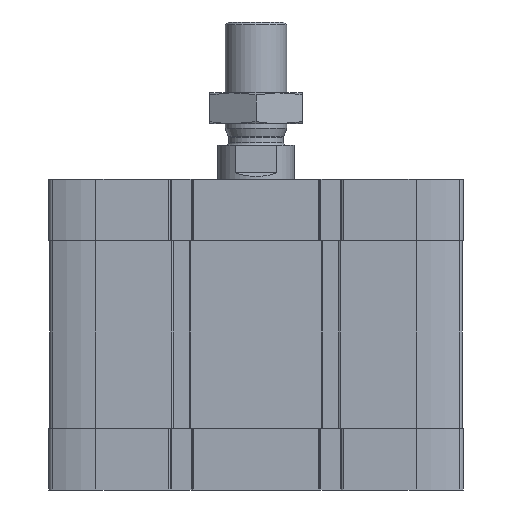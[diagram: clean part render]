
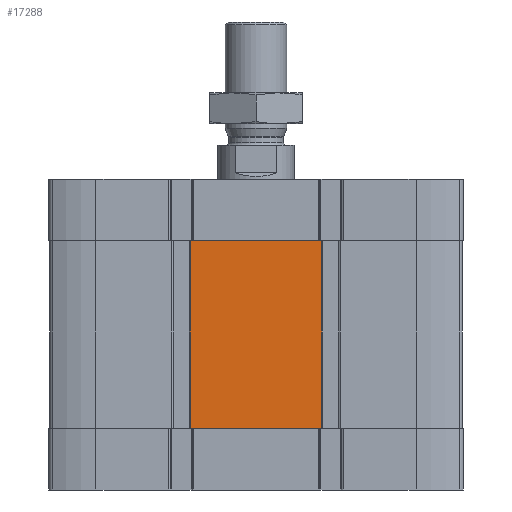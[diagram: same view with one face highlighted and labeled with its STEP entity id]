
A CAD part, front view. The second image highlights one B-rep face of the part: STEP entity #17288.
In plain terms, the highlighted planar face has unit normal (0, -1, 0).
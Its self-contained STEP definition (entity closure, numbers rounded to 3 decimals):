
#852 = VERTEX_POINT ( 'NONE', #6602 ) ;
#915 = FACE_OUTER_BOUND ( 'NONE', #6886, .T. ) ;
#1289 = DIRECTION ( 'NONE',  ( 1., 0., 0. ) ) ;
#1398 = ORIENTED_EDGE ( 'NONE', *, *, #10914, .F. ) ;
#1501 = DIRECTION ( 'NONE',  ( 0., 0., 1. ) ) ;
#1591 = DIRECTION ( 'NONE',  ( 1., 0., 0. ) ) ;
#1842 = EDGE_CURVE ( 'NONE', #11816, #852, #8671, .T. ) ;
#1900 = ORIENTED_EDGE ( 'NONE', *, *, #7865, .T. ) ;
#2035 = EDGE_CURVE ( 'NONE', #4193, #4797, #4889, .T. ) ;
#2349 = ORIENTED_EDGE ( 'NONE', *, *, #1842, .T. ) ;
#2421 = CARTESIAN_POINT ( 'NONE',  ( -21.3, -67., -81. ) ) ;
#3587 = CARTESIAN_POINT ( 'NONE',  ( -20.687, -67., -81. ) ) ;
#4072 = CARTESIAN_POINT ( 'NONE',  ( -21.3, -67., -20. ) ) ;
#4193 = VERTEX_POINT ( 'NONE', #4072 ) ;
#4428 = VECTOR ( 'NONE', #1289, 1000. ) ;
#4518 = LINE ( 'NONE', #15621, #14777 ) ;
#4794 = DIRECTION ( 'NONE',  ( 1., 0., 0. ) ) ;
#4797 = VERTEX_POINT ( 'NONE', #14120 ) ;
#4889 = LINE ( 'NONE', #13162, #13320 ) ;
#5149 = VECTOR ( 'NONE', #8596, 1000. ) ;
#5422 = CARTESIAN_POINT ( 'NONE',  ( -67., -67., -20. ) ) ;
#6080 = CARTESIAN_POINT ( 'NONE',  ( 21.3, -67., -20. ) ) ;
#6305 = CARTESIAN_POINT ( 'NONE',  ( -21.3, -67., -81. ) ) ;
#6412 = EDGE_CURVE ( 'NONE', #12957, #4193, #9417, .T. ) ;
#6522 = LINE ( 'NONE', #5422, #15676 ) ;
#6602 = CARTESIAN_POINT ( 'NONE',  ( 21.3, -67., -81. ) ) ;
#6725 = VECTOR ( 'NONE', #1501, 1000. ) ;
#6886 = EDGE_LOOP ( 'NONE', ( #18098, #12323, #1900, #2349, #11811, #12487, #1398, #9005 ) ) ;
#7390 = CARTESIAN_POINT ( 'NONE',  ( 21.3, -67., -81. ) ) ;
#7812 = DIRECTION ( 'NONE',  ( 0., -1., 0. ) ) ;
#7865 = EDGE_CURVE ( 'NONE', #12256, #11816, #9319, .T. ) ;
#7942 = VECTOR ( 'NONE', #16012, 1000. ) ;
#8080 = CARTESIAN_POINT ( 'NONE',  ( 20.687, -67., -20. ) ) ;
#8234 = EDGE_CURVE ( 'NONE', #12957, #12256, #14046, .T. ) ;
#8596 = DIRECTION ( 'NONE',  ( 0., 0., 1. ) ) ;
#8671 = LINE ( 'NONE', #14349, #17404 ) ;
#8697 = LINE ( 'NONE', #7390, #5149 ) ;
#9005 = ORIENTED_EDGE ( 'NONE', *, *, #2035, .F. ) ;
#9319 = LINE ( 'NONE', #13257, #7942 ) ;
#9417 = LINE ( 'NONE', #2421, #6725 ) ;
#9470 = CARTESIAN_POINT ( 'NONE',  ( -67., -67., -81. ) ) ;
#9490 = AXIS2_PLACEMENT_3D ( 'NONE', #12125, #7812, #17798 ) ;
#10774 = DIRECTION ( 'NONE',  ( 1., 0., 0. ) ) ;
#10914 = EDGE_CURVE ( 'NONE', #4797, #17342, #4518, .T. ) ;
#10976 = CARTESIAN_POINT ( 'NONE',  ( 20.687, -67., -81. ) ) ;
#11811 = ORIENTED_EDGE ( 'NONE', *, *, #14074, .T. ) ;
#11816 = VERTEX_POINT ( 'NONE', #10976 ) ;
#12117 = VERTEX_POINT ( 'NONE', #6080 ) ;
#12125 = CARTESIAN_POINT ( 'NONE',  ( -67., -67., -81. ) ) ;
#12256 = VERTEX_POINT ( 'NONE', #3587 ) ;
#12323 = ORIENTED_EDGE ( 'NONE', *, *, #8234, .T. ) ;
#12487 = ORIENTED_EDGE ( 'NONE', *, *, #13275, .F. ) ;
#12957 = VERTEX_POINT ( 'NONE', #6305 ) ;
#13162 = CARTESIAN_POINT ( 'NONE',  ( -67., -67., -20. ) ) ;
#13257 = CARTESIAN_POINT ( 'NONE',  ( -21.3, -67., -81. ) ) ;
#13275 = EDGE_CURVE ( 'NONE', #17342, #12117, #6522, .T. ) ;
#13320 = VECTOR ( 'NONE', #4794, 1000. ) ;
#14046 = LINE ( 'NONE', #9470, #4428 ) ;
#14073 = DIRECTION ( 'NONE',  ( 1., 0., 0. ) ) ;
#14074 = EDGE_CURVE ( 'NONE', #852, #12117, #8697, .T. ) ;
#14120 = CARTESIAN_POINT ( 'NONE',  ( -20.687, -67., -20. ) ) ;
#14349 = CARTESIAN_POINT ( 'NONE',  ( -67., -67., -81. ) ) ;
#14777 = VECTOR ( 'NONE', #14073, 1000. ) ;
#15621 = CARTESIAN_POINT ( 'NONE',  ( -21.3, -67., -20. ) ) ;
#15676 = VECTOR ( 'NONE', #10774, 1000. ) ;
#16012 = DIRECTION ( 'NONE',  ( 1., 0., 0. ) ) ;
#16148 = PLANE ( 'NONE',  #9490 ) ;
#17288 = ADVANCED_FACE ( 'NONE', ( #915 ), #16148, .T. ) ;
#17342 = VERTEX_POINT ( 'NONE', #8080 ) ;
#17404 = VECTOR ( 'NONE', #1591, 1000. ) ;
#17798 = DIRECTION ( 'NONE',  ( 0., 0., -1. ) ) ;
#18098 = ORIENTED_EDGE ( 'NONE', *, *, #6412, .F. ) ;
